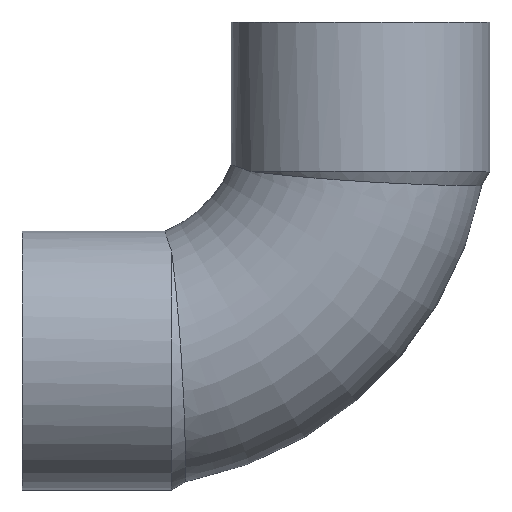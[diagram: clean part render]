
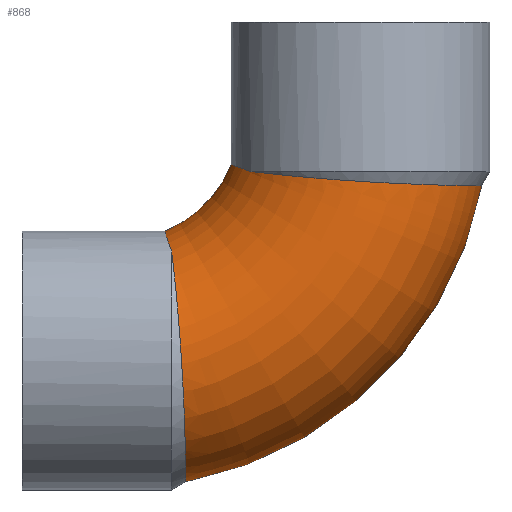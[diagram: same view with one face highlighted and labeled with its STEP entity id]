
A CAD part, top view. The second image highlights one B-rep face of the part: STEP entity #868.
In plain terms, the highlighted toroidal (fillet/blend) face has major radius 52 mm and minor radius 26 mm.
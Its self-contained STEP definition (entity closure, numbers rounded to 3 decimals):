
#159=CARTESIAN_POINT('',(14.454,-76.649,0.));
#160=VERTEX_POINT('',#159);
#161=CARTESIAN_POINT('',(76.649,-14.454,0.));
#162=VERTEX_POINT('',#161);
#163=CARTESIAN_POINT('',(0.0,0.0,0.));
#164=DIRECTION('',(0.0,0.0,1.0));
#165=DIRECTION('',(1.0,0.0,0.0));
#166=AXIS2_PLACEMENT_3D('',#163,#164,#165);
#167=CIRCLE('',#166,78.0);
#168=EDGE_CURVE('',#160,#162,#167,.T.);
#191=CARTESIAN_POINT('',(10.,-24.,0.));
#192=VERTEX_POINT('',#191);
#204=CARTESIAN_POINT('',(24.,-10.,0.));
#205=VERTEX_POINT('',#204);
#206=CARTESIAN_POINT('',(0.0,0.0,0.));
#207=DIRECTION('',(0.0,0.0,-1.0));
#208=DIRECTION('',(1.0,0.0,0.0));
#209=AXIS2_PLACEMENT_3D('',#206,#207,#208);
#210=CIRCLE('',#209,26.0);
#211=EDGE_CURVE('',#205,#192,#210,.T.);
#263=CARTESIAN_POINT('',(11.422,-28.148,14.438));
#264=VERTEX_POINT('',#263);
#272=CARTESIAN_POINT('',(10.,-24.,0.));
#273=CARTESIAN_POINT('',(10.,-24.,2.314));
#274=CARTESIAN_POINT('',(10.093,-24.296,4.62));
#275=CARTESIAN_POINT('',(10.515,-25.582,9.556));
#276=CARTESIAN_POINT('',(10.882,-26.693,12.115));
#277=CARTESIAN_POINT('',(11.422,-28.148,14.438));
#278=B_SPLINE_CURVE_WITH_KNOTS('',3,(#272,#273,#274,#275,#276,#277),.UNSPECIFIED.,.F.,.U.,(4,2,4),(-1.533,-0.838,0.0),.UNSPECIFIED.);
#279=EDGE_CURVE('',#192,#264,#278,.T.);
#368=CARTESIAN_POINT('',(11.422,-28.148,14.438));
#369=CARTESIAN_POINT('',(11.596,-29.527,16.45));
#370=CARTESIAN_POINT('',(11.794,-31.182,18.259));
#371=CARTESIAN_POINT('',(12.204,-34.943,21.381));
#372=CARTESIAN_POINT('',(12.415,-37.036,22.679));
#373=CARTESIAN_POINT('',(12.888,-42.222,24.986));
#374=CARTESIAN_POINT('',(13.14,-45.385,25.758));
#375=CARTESIAN_POINT('',(13.577,-51.776,26.142));
#376=CARTESIAN_POINT('',(13.761,-54.955,25.772));
#377=CARTESIAN_POINT('',(14.054,-61.01,23.941));
#378=CARTESIAN_POINT('',(14.162,-63.841,22.504));
#379=CARTESIAN_POINT('',(14.319,-68.862,18.698));
#380=CARTESIAN_POINT('',(14.367,-71.012,16.36));
#381=CARTESIAN_POINT('',(14.429,-74.405,10.968));
#382=CARTESIAN_POINT('',(14.443,-75.596,7.949));
#383=CARTESIAN_POINT('',(14.453,-76.499,3.205));
#384=CARTESIAN_POINT('',(14.454,-76.649,1.602));
#385=CARTESIAN_POINT('',(14.454,-76.649,0.));
#386=B_SPLINE_CURVE_WITH_KNOTS('',3,(#368,#369,#370,#371,#372,#373,#374,#375,#376,#377,#378,#379,#380,#381,#382,#383,#384,#385),.UNSPECIFIED.,.F.,.U.,(4,2,2,2,2,2,2,2,4),(-13.473,-12.739,-12.002,-11.031,-10.078,-9.133,-8.187,-7.222,-6.738),.UNSPECIFIED.);
#387=EDGE_CURVE('',#264,#160,#386,.T.);
#727=CARTESIAN_POINT('',(28.148,-11.422,14.438));
#728=VERTEX_POINT('',#727);
#736=CARTESIAN_POINT('',(76.649,-14.454,0.));
#737=CARTESIAN_POINT('',(76.649,-14.454,1.771));
#738=CARTESIAN_POINT('',(76.465,-14.453,3.541));
#739=CARTESIAN_POINT('',(75.395,-14.44,8.619));
#740=CARTESIAN_POINT('',(74.035,-14.424,11.779));
#741=CARTESIAN_POINT('',(70.15,-14.349,17.422));
#742=CARTESIAN_POINT('',(67.654,-14.288,19.84));
#743=CARTESIAN_POINT('',(61.84,-14.087,23.61));
#744=CARTESIAN_POINT('',(58.567,-13.947,24.91));
#745=CARTESIAN_POINT('',(51.67,-13.573,26.193));
#746=CARTESIAN_POINT('',(48.105,-13.34,26.147));
#747=CARTESIAN_POINT('',(41.172,-12.802,24.682));
#748=CARTESIAN_POINT('',(37.868,-12.501,23.264));
#749=CARTESIAN_POINT('',(32.283,-11.924,19.408));
#750=CARTESIAN_POINT('',(29.975,-11.653,17.104));
#751=CARTESIAN_POINT('',(28.148,-11.422,14.438));
#752=B_SPLINE_CURVE_WITH_KNOTS('',3,(#736,#737,#738,#739,#740,#741,#742,#743,#744,#745,#746,#747,#748,#749,#750,#751),.UNSPECIFIED.,.F.,.U.,(4,2,2,2,2,2,2,4),(-6.738,-6.204,-5.181,-4.149,-3.102,-2.042,-0.972,0.0),.UNSPECIFIED.);
#753=EDGE_CURVE('',#162,#728,#752,.T.);
#826=CARTESIAN_POINT('',(28.148,-11.422,14.438));
#827=CARTESIAN_POINT('',(27.032,-11.007,12.655));
#828=CARTESIAN_POINT('',(26.116,-10.696,10.732));
#829=CARTESIAN_POINT('',(24.738,-10.236,6.655));
#830=CARTESIAN_POINT('',(24.289,-10.093,4.515));
#831=CARTESIAN_POINT('',(24.034,-10.011,1.562));
#832=CARTESIAN_POINT('',(24.,-10.,0.78));
#833=CARTESIAN_POINT('',(24.,-10.,0.));
#834=B_SPLINE_CURVE_WITH_KNOTS('',3,(#826,#827,#828,#829,#830,#831,#832,#833),.UNSPECIFIED.,.F.,.U.,(4,2,2,4),(-3.064,-2.422,-1.768,-1.533),.UNSPECIFIED.);
#835=EDGE_CURVE('',#728,#205,#834,.T.);
#855=CARTESIAN_POINT('',(0.0,0.0,0.0));
#856=DIRECTION('',(0.0,0.0,1.0));
#857=DIRECTION('',(1.0,0.0,0.0));
#858=AXIS2_PLACEMENT_3D('',#855,#856,#857);
#859=TOROIDAL_SURFACE('',#858,52.0,26.0);
#860=ORIENTED_EDGE('',*,*,#168,.T.);
#861=ORIENTED_EDGE('',*,*,#753,.T.);
#862=ORIENTED_EDGE('',*,*,#835,.T.);
#863=ORIENTED_EDGE('',*,*,#211,.T.);
#864=ORIENTED_EDGE('',*,*,#279,.T.);
#865=ORIENTED_EDGE('',*,*,#387,.T.);
#866=EDGE_LOOP('',(#860,#861,#862,#863,#864,#865));
#867=FACE_OUTER_BOUND('',#866,.T.);
#868=ADVANCED_FACE('',(#867),#859,.T.);
